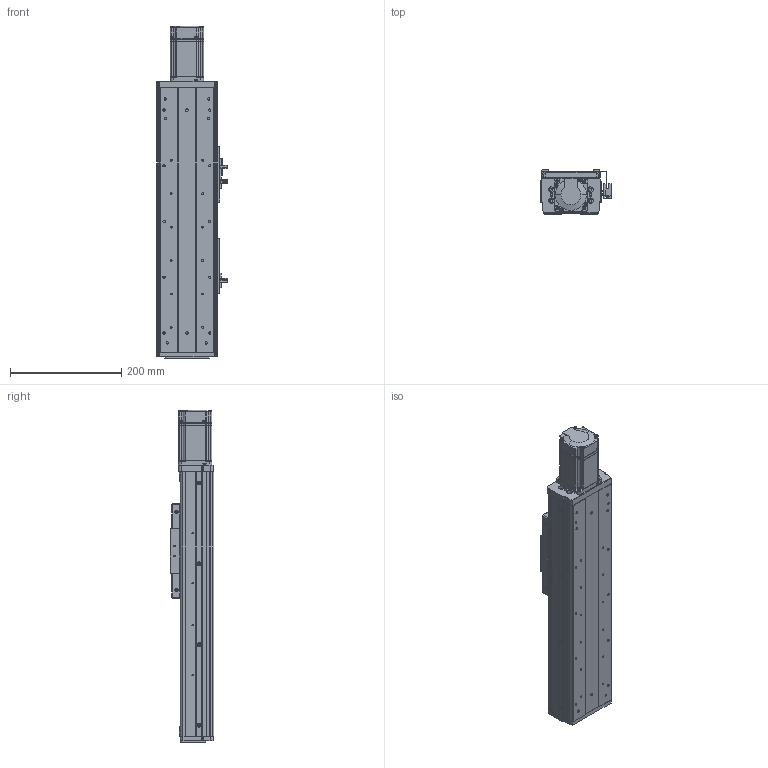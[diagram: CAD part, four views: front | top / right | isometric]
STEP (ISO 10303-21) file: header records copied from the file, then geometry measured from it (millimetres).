
FILE_DESCRIPTION (( 'STEP AP203' ), '1' );
FILE_NAME ('RY100FS-300-MK(15双轨).SLDASM_200.step', '2021-03-02T05:50:32', ( '盈信电脑' ), ( '东莞市道滘镇水果街19号' ), 'SwSTEP 2.0', 'SolidWorks 2012', '' );
FILE_SCHEMA (( 'CONFIG_CONTROL_DESIGN' ));
Length unit declared in the file: millimetre
Products named in the file (20): RY100FS-双轨螺母座(16丝杆）; 滅袉蝶14-35; 滅袉蝶14-24; RY100FS-300-MK(15邧寢).SLDASM_200; RY100FS-15絳寢萇儂假蚾啣(200W PCD70 M4); RY80俋离覜茼え; RY100F-詩湍揤踡輸; 覜茼ん672; 1; RY100F-綴裔啣; 侂狟200W萇儂; 672嫖萇羲壽假蚾釱; RY100F-詩湍揤踡謫; RY100F-滅鳥裔啣; RY100F-詩湍幗謫粣; 棠沺沭; RY100FS-300-MK15絳寢倰第奻裔啣_200; RY100FS-双轨铝滑块(上板）; RY100FS-300-MK15邧寢祥凄詩湍_200; RY100FS-300-MK15絳寢倰第菁釱_200
Assembly tree (27 placements, depth 3):
  RY100FS-300-MK(15邧寢).SLDASM_200
    RY100FS-300-MK15絳寢倰第菁釱_200
    RY100FS-300-MK15絳寢倰第奻裔啣_200  x2
    RY100FS-300-MK15邧寢祥凄詩湍_200
    RY100FS-双轨铝滑块(上板）
    RY100F-滅鳥裔啣
    棠沺沭  x2
    RY100F-詩湍幗謫粣
    RY100F-詩湍揤踡謫  x2
    侂狟200W萇儂
      1
    RY100F-綴裔啣
    672嫖萇羲壽假蚾釱  x2
    RY80俋离覜茼え  x2
    覜茼ん672  x3
    RY100F-詩湍揤踡輸  x2
    RY100FS-15絳寢萇儂假蚾啣(200W PCD70 M4)
    RY100FS-双轨螺母座(16丝杆）
    滅袉蝶14-24
    滅袉蝶14-35
Bounding box: 126.2 x 78.5 x 596 mm (x, y, z)
Volume: 1559057.7 mm3; surface area: 586082.2 mm2
Topology: 26 solids, 26 shells, 1939 faces, 5249 edges, 3408 vertices
Faces by surface type: plane 960, cylinder 818, cone 136, bspline 25
Entity records: 54088 total; most frequent: CARTESIAN_POINT 10714, DIRECTION 8652, ORIENTED_EDGE 8478, EDGE_CURVE 4239, AXIS2_PLACEMENT_3D 3028, VERTEX_POINT 2788, VECTOR 2596, LINE 2596
